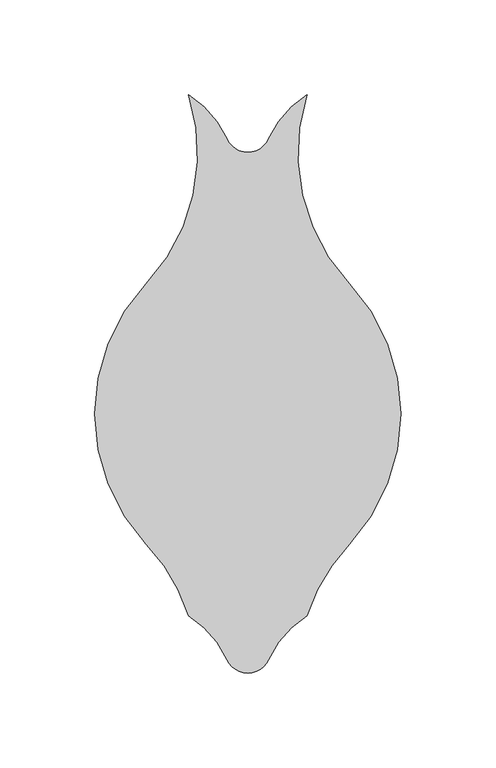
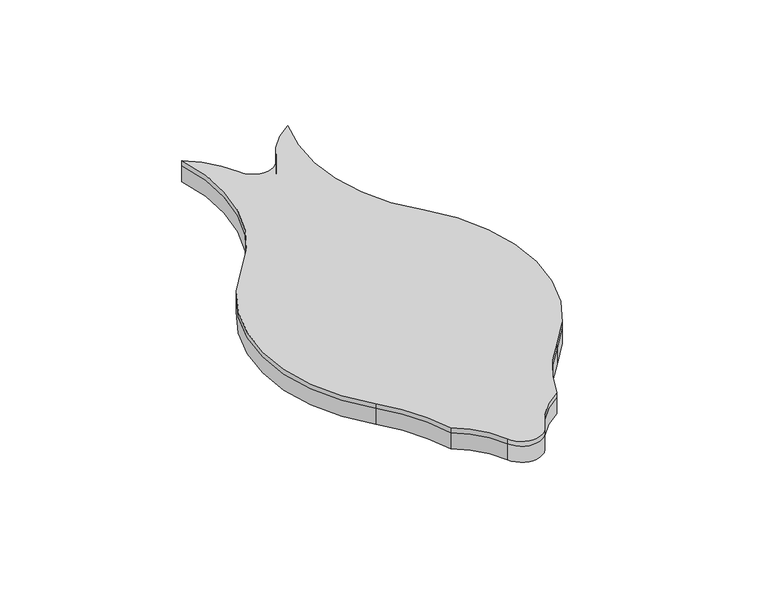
"""IFC4 building model written with IfcOpenShell, lengths in millimetres: proxy geometry, FilzFelt_Fish_Block : Fish Block."""

from ifc_helpers import new_model, si_unit, frame, origin, place, context, project, spatial, polyline, circle_curve, source, transform, mapped, element, save
from ifc_brep_helpers import plane_surface, cylinder_surface, revolved_surface, advanced_brep


def specialty_equipment_1d68d449(model_context):
    return source(origin(), model_context, "Body", "AdvancedBrep", [
        advanced_brep(
        [(53.5486457, -68.6120133, 10.0210937), (31.2619065, -106.3338576, 10.0210937), (11.0103348, -129.4133496, 10.0210937), (-11.0103348, -129.4133496, 10.0210937), (-31.2619065, -106.3338576, 10.0210937), (-53.5486457, -68.6120133, 10.0210937), (-80.7142226, 0.0, 10.0210937), (-53.5486457, 68.6120133, 10.0210937), (-31.2619065, 168.1141956, 10.0210937), (-11.0103348, 145.0347036, 10.0210937), (11.0103348, 145.0347036, 10.0210937), (31.2619065, 168.1141956, 10.0210937), (53.5486457, 68.6120133, 10.0210937), (53.5486457, -68.6120133, 12.9976563), (80.7142226, 0.0, 12.9976563), (53.5486457, 68.6120133, 12.9976563), (31.2619065, 168.1141956, 12.9976563), (11.0103348, 145.0347036, 12.9976563), (-11.0103348, 145.0347036, 12.9976563), (-31.2619065, 168.1141956, 12.9976563), (-53.5486457, 68.6120133, 12.9976563), (-80.7142226, 0.0, 12.9976563), (-53.5486457, -68.6120133, 12.9976563), (-31.2619065, -106.3338576, 12.9976563), (-11.0103348, -129.4133496, 12.9976563), (0.0, -136.5838795, 12.9976563), (11.0103348, -129.4133496, 12.9976563), (31.2619065, -106.3338576, 12.9976563)],
        [
            (0, 1, circle_curve(frame((126.6124317, -137.2240266, 10.0210937), z_axis=(0.0, 0.0, 1.0), x_axis=(-1.0, 0.0, 0.0)), 100.2293629)),
            (1, 2, circle_curve(frame((57.9263497, -150.1559416, 10.0210937), z_axis=(0.0, 0.0, 1.0), x_axis=(-1.0, 0.0, 0.0)), 51.2968574)),
            (2, 3, circle_curve(frame((0.0, -124.5454408, 10.0210937), z_axis=(0.0, 0.0, -1.0), x_axis=(-1.0, 0.0, 0.0)), 12.0384388)),
            (3, 4, circle_curve(frame((-57.9263497, -150.1559416, 10.0210937), z_axis=(0.0, 0.0, 1.0), x_axis=(-1.0, 0.0, 0.0)), 51.2968574)),
            (4, 5, circle_curve(frame((-126.6124317, -137.2240266, 10.0210937), z_axis=(0.0, 0.0, 1.0), x_axis=(-1.0, 0.0, 0.0)), 100.2293629)),
            (5, 6, circle_curve(frame((19.5151403, 0.0, 10.0210937), z_axis=(0.0, 0.0, -1.0), x_axis=(-1.0, 0.0, 0.0)), 100.2293629)),
            (6, 7, circle_curve(frame((19.5151403, 0.0, 10.0210937), z_axis=(0.0, 0.0, -1.0), x_axis=(-1.0, 0.0, 0.0)), 100.2293629)),
            (7, 8, circle_curve(frame((-126.6124317, 137.2240266, 10.0210937), z_axis=(0.0, 0.0, 1.0), x_axis=(-1.0, 0.0, 0.0)), 100.2293629)),
            (8, 9, circle_curve(frame((-57.9263497, 124.2921115, 10.0210937), z_axis=(0.0, 0.0, -1.0), x_axis=(-1.0, 0.0, 0.0)), 51.2968574)),
            (9, 10, circle_curve(frame((0.0, 149.9026124, 10.0210937), z_axis=(0.0, 0.0, 1.0), x_axis=(-1.0, 0.0, 0.0)), 12.0384388)),
            (10, 11, circle_curve(frame((57.9263497, 124.2921115, 10.0210937), z_axis=(0.0, 0.0, -1.0), x_axis=(-1.0, 0.0, 0.0)), 51.2968574)),
            (11, 12, circle_curve(frame((126.6124317, 137.2240266, 10.0210937), z_axis=(0.0, 0.0, 1.0), x_axis=(-1.0, 0.0, 0.0)), 100.2293629)),
            (12, 0, circle_curve(frame((-19.5151403, 0.0, 10.0210937), z_axis=(0.0, 0.0, -1.0), x_axis=(-1.0, 0.0, 0.0)), 100.2293629)),
            (13, 14, circle_curve(frame((-19.5151403, 0.0, 12.9976563), z_axis=(0.0, 0.0, 1.0), x_axis=(-1.0, 0.0, 0.0)), 100.2293629)),
            (14, 15, circle_curve(frame((-19.5151403, 0.0, 12.9976563), z_axis=(0.0, 0.0, 1.0), x_axis=(-1.0, 0.0, 0.0)), 100.2293629)),
            (15, 16, circle_curve(frame((126.6124317, 137.2240266, 12.9976563), z_axis=(0.0, 0.0, -1.0), x_axis=(-1.0, 0.0, 0.0)), 100.2293629)),
            (16, 17, circle_curve(frame((57.9263497, 124.2921115, 12.9976563), z_axis=(0.0, 0.0, 1.0), x_axis=(-1.0, 0.0, 0.0)), 51.2968574)),
            (17, 18, circle_curve(frame((0.0, 149.9026124, 12.9976563), z_axis=(0.0, 0.0, -1.0), x_axis=(-1.0, 0.0, 0.0)), 12.0384388)),
            (18, 19, circle_curve(frame((-57.9263497, 124.2921115, 12.9976563), z_axis=(0.0, 0.0, 1.0), x_axis=(-1.0, 0.0, 0.0)), 51.2968574)),
            (19, 20, circle_curve(frame((-126.6124317, 137.2240266, 12.9976563), z_axis=(0.0, 0.0, -1.0), x_axis=(-1.0, 0.0, 0.0)), 100.2293629)),
            (20, 21, circle_curve(frame((19.5151403, 0.0, 12.9976563), z_axis=(0.0, 0.0, 1.0), x_axis=(-1.0, 0.0, 0.0)), 100.2293629)),
            (21, 22, circle_curve(frame((19.5151403, 0.0, 12.9976563), z_axis=(0.0, 0.0, 1.0), x_axis=(-1.0, 0.0, 0.0)), 100.2293629)),
            (22, 23, circle_curve(frame((-126.6124317, -137.2240266, 12.9976563), z_axis=(0.0, 0.0, -1.0), x_axis=(-1.0, 0.0, 0.0)), 100.2293629)),
            (23, 24, circle_curve(frame((-57.9263497, -150.1559416, 12.9976563), z_axis=(0.0, 0.0, -1.0), x_axis=(-1.0, 0.0, 0.0)), 51.2968574)),
            (24, 25, circle_curve(frame((0.0, -124.5454408, 12.9976563), z_axis=(0.0, 0.0, 1.0), x_axis=(-1.0, 0.0, 0.0)), 12.0384388)),
            (25, 26, circle_curve(frame((0.0, -124.5454408, 12.9976563), z_axis=(0.0, 0.0, 1.0), x_axis=(-1.0, 0.0, 0.0)), 12.0384388)),
            (26, 27, circle_curve(frame((57.9263497, -150.1559416, 12.9976563), z_axis=(0.0, 0.0, -1.0), x_axis=(-1.0, 0.0, 0.0)), 51.2968574)),
            (27, 13, circle_curve(frame((126.6124317, -137.2240266, 12.9976563), z_axis=(0.0, 0.0, -1.0), x_axis=(-1.0, 0.0, 0.0)), 100.2293629)),
            (12, 15),
            (13, 0),
            (11, 16),
            (10, 17),
            (9, 18),
            (8, 19),
            (7, 20),
            (5, 22),
            (4, 23),
            (3, 24),
            (2, 26),
            (1, 27),
        ],
        [
            plane_surface(frame((0.0, 0.0, 10.0210937), z_axis=(0.0, 0.0, -1.0), x_axis=(0.0, 1.0, 0.0))),
            plane_surface(frame((0.0, 0.0, 12.9976563), z_axis=(0.0, 0.0, 1.0), x_axis=(0.0, 1.0, 0.0))),
            cylinder_surface(frame((-19.5151403, 0.0, 10.0210937), z_axis=(0.0, 0.0, -1.0), x_axis=(-1.0, 0.0, 0.0)), 100.2293629),
            revolved_surface(polyline([(26.383068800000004, 137.2240266, 12.9976563), (26.383068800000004, 137.2240266, 10.0210937)]), (126.6124317, 137.2240266, 10.0210937), (0.0, 0.0, 1.0)),
            cylinder_surface(frame((57.9263497, 124.2921115, 10.0210937), z_axis=(0.0, 0.0, -1.0), x_axis=(-1.0, 0.0, 0.0)), 51.2968574),
            revolved_surface(polyline([(-12.0384388, 149.9026124, 12.9976563), (-12.0384388, 149.9026124, 10.0210937)]), (0.0, 149.9026124, 10.0210937), (0.0, 0.0, 1.0)),
            cylinder_surface(frame((-57.9263497, 124.2921115, 10.0210937), z_axis=(0.0, 0.0, -1.0), x_axis=(-1.0, 0.0, 0.0)), 51.2968574),
            revolved_surface(polyline([(-226.84179460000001, 137.2240266, 12.9976563), (-226.84179460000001, 137.2240266, 10.0210937)]), (-126.6124317, 137.2240266, 10.0210937), (0.0, 0.0, 1.0)),
            cylinder_surface(frame((19.5151403, 0.0, 10.0210937), z_axis=(0.0, 0.0, -1.0), x_axis=(-1.0, 0.0, 0.0)), 100.2293629),
            revolved_surface(polyline([(-226.84179460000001, -137.2240266, 12.9976563), (-226.84179460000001, -137.2240266, 10.0210937)]), (-126.6124317, -137.2240266, 10.0210937), (0.0, 0.0, 1.0)),
            revolved_surface(polyline([(-109.2232071, -150.1559416, 12.9976563), (-109.2232071, -150.1559416, 10.0210937)]), (-57.9263497, -150.1559416, 10.0210937), (0.0, 0.0, 1.0)),
            cylinder_surface(frame((0.0, -124.5454408, 10.0210937), z_axis=(0.0, 0.0, -1.0), x_axis=(-1.0, 0.0, 0.0)), 12.0384388),
            revolved_surface(polyline([(6.629492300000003, -150.1559416, 12.9976563), (6.629492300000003, -150.1559416, 10.0210937)]), (57.9263497, -150.1559416, 10.0210937), (0.0, 0.0, 1.0)),
            revolved_surface(polyline([(26.383068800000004, -137.2240266, 12.9976563), (26.383068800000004, -137.2240266, 10.0210937)]), (126.6124317, -137.2240266, 10.0210937), (0.0, 0.0, 1.0)),
        ],
        [
            (0, [[1, 2, 3, 4, 5, 6, 7, 8, 9, 10, 11, 12, 13]]),
            (1, [[14, 15, 16, 17, 18, 19, 20, 21, 22, 23, 24, 25, 26, 27, 28]]),
            (2, [[29, -15, -14, 30, -13]]),
            (3, [[31, -16, -29, -12]]),
            (4, [[32, -17, -31, -11]]),
            (5, [[33, -18, -32, -10]]),
            (6, [[34, -19, -33, -9]]),
            (7, [[35, -20, -34, -8]]),
            (8, [[-7, -6, 36, -22, -21, -35]]),
            (9, [[37, -23, -36, -5]]),
            (10, [[38, -24, -37, -4]]),
            (11, [[39, -26, -25, -38, -3]]),
            (12, [[40, -27, -39, -2]]),
            (13, [[-30, -28, -40, -1]]),
        ],
    ),
        advanced_brep(
        [(31.2619065, 168.1141956, 0.0), (53.5486457, 68.6120133, 0.0), (80.7142226, 0.0, 0.0), (53.5486457, -68.6120133, 0.0), (31.2619065, -106.3338576, 0.0), (11.0103348, -129.4133496, 0.0), (0.0, -136.5838795, 0.0), (-11.0103348, -129.4133496, 0.0), (-31.2619065, -106.3338576, 0.0), (-53.5486457, -68.6120133, 0.0), (-80.7142226, 0.0, 0.0), (-53.5486457, 68.6120133, 0.0), (-31.2619065, 168.1141956, 0.0), (-11.0103348, 145.0347036, 0.0), (11.0103348, 145.0347036, 0.0), (31.2619065, 168.1141956, 10.0210937), (11.0103348, 145.0347036, 10.0210937), (-11.0103348, 145.0347036, 10.0210937), (-31.2619065, 168.1141956, 10.0210937), (-53.5486457, 68.6120133, 10.0210937), (-80.7142226, 0.0, 10.0210937), (-53.5486457, -68.6120133, 10.0210937), (-31.2619065, -106.3338576, 10.0210937), (-11.0103348, -129.4133496, 10.0210937), (11.0103348, -129.4133496, 10.0210937), (31.2619065, -106.3338576, 10.0210937), (53.5486457, -68.6120133, 10.0210937), (53.5486457, 68.6120133, 10.0210937)],
        [
            (0, 1, circle_curve(frame((126.6124317, 137.2240266, 0.0), z_axis=(0.0, 0.0, 1.0), x_axis=(-1.0, 0.0, 0.0)), 100.2293629)),
            (1, 2, circle_curve(frame((-19.5151403, 0.0, 0.0), z_axis=(0.0, 0.0, -1.0), x_axis=(-1.0, 0.0, 0.0)), 100.2293629)),
            (2, 3, circle_curve(frame((-19.5151403, 0.0, 0.0), z_axis=(0.0, 0.0, -1.0), x_axis=(-1.0, 0.0, 0.0)), 100.2293629)),
            (3, 4, circle_curve(frame((126.6124317, -137.2240266, 0.0), z_axis=(0.0, 0.0, 1.0), x_axis=(-1.0, 0.0, 0.0)), 100.2293629)),
            (4, 5, circle_curve(frame((57.9263497, -150.1559416, 0.0), z_axis=(0.0, 0.0, 1.0), x_axis=(-1.0, 0.0, 0.0)), 51.2968574)),
            (5, 6, circle_curve(frame((0.0, -124.5454408, 0.0), z_axis=(0.0, 0.0, -1.0), x_axis=(-1.0, 0.0, 0.0)), 12.0384388)),
            (6, 7, circle_curve(frame((0.0, -124.5454408, 0.0), z_axis=(0.0, 0.0, -1.0), x_axis=(-1.0, 0.0, 0.0)), 12.0384388)),
            (7, 8, circle_curve(frame((-57.9263497, -150.1559416, 0.0), z_axis=(0.0, 0.0, 1.0), x_axis=(-1.0, 0.0, 0.0)), 51.2968574)),
            (8, 9, circle_curve(frame((-126.6124317, -137.2240266, 0.0), z_axis=(0.0, 0.0, 1.0), x_axis=(-1.0, 0.0, 0.0)), 100.2293629)),
            (9, 10, circle_curve(frame((19.5151403, 0.0, 0.0), z_axis=(0.0, 0.0, -1.0), x_axis=(-1.0, 0.0, 0.0)), 100.2293629)),
            (10, 11, circle_curve(frame((19.5151403, 0.0, 0.0), z_axis=(0.0, 0.0, -1.0), x_axis=(-1.0, 0.0, 0.0)), 100.2293629)),
            (11, 12, circle_curve(frame((-126.6124317, 137.2240266, 0.0), z_axis=(0.0, 0.0, 1.0), x_axis=(-1.0, 0.0, 0.0)), 100.2293629)),
            (12, 13, circle_curve(frame((-57.9263497, 124.2921115, 0.0), z_axis=(0.0, 0.0, -1.0), x_axis=(-1.0, 0.0, 0.0)), 51.2968574)),
            (13, 14, circle_curve(frame((0.0, 149.9026124, 0.0), z_axis=(0.0, 0.0, 1.0), x_axis=(-1.0, 0.0, 0.0)), 12.0384388)),
            (14, 0, circle_curve(frame((57.9263497, 124.2921115, 0.0), z_axis=(0.0, 0.0, -1.0), x_axis=(-1.0, 0.0, 0.0)), 51.2968574)),
            (15, 16, circle_curve(frame((57.9263497, 124.2921115, 10.0210937), z_axis=(0.0, 0.0, 1.0), x_axis=(-1.0, 0.0, 0.0)), 51.2968574)),
            (16, 17, circle_curve(frame((0.0, 149.9026124, 10.0210937), z_axis=(0.0, 0.0, -1.0), x_axis=(-1.0, 0.0, 0.0)), 12.0384388)),
            (17, 18, circle_curve(frame((-57.9263497, 124.2921115, 10.0210937), z_axis=(0.0, 0.0, 1.0), x_axis=(-1.0, 0.0, 0.0)), 51.2968574)),
            (18, 19, circle_curve(frame((-126.6124317, 137.2240266, 10.0210937), z_axis=(0.0, 0.0, -1.0), x_axis=(-1.0, 0.0, 0.0)), 100.2293629)),
            (19, 20, circle_curve(frame((19.5151403, 0.0, 10.0210937), z_axis=(0.0, 0.0, 1.0), x_axis=(-1.0, 0.0, 0.0)), 100.2293629)),
            (20, 21, circle_curve(frame((19.5151403, 0.0, 10.0210937), z_axis=(0.0, 0.0, 1.0), x_axis=(-1.0, 0.0, 0.0)), 100.2293629)),
            (21, 22, circle_curve(frame((-126.6124317, -137.2240266, 10.0210937), z_axis=(0.0, 0.0, -1.0), x_axis=(-1.0, 0.0, 0.0)), 100.2293629)),
            (22, 23, circle_curve(frame((-57.9263497, -150.1559416, 10.0210937), z_axis=(0.0, 0.0, -1.0), x_axis=(-1.0, 0.0, 0.0)), 51.2968574)),
            (23, 24, circle_curve(frame((0.0, -124.5454408, 10.0210937), z_axis=(0.0, 0.0, 1.0), x_axis=(-1.0, 0.0, 0.0)), 12.0384388)),
            (24, 25, circle_curve(frame((57.9263497, -150.1559416, 10.0210937), z_axis=(0.0, 0.0, -1.0), x_axis=(-1.0, 0.0, 0.0)), 51.2968574)),
            (25, 26, circle_curve(frame((126.6124317, -137.2240266, 10.0210937), z_axis=(0.0, 0.0, -1.0), x_axis=(-1.0, 0.0, 0.0)), 100.2293629)),
            (26, 27, circle_curve(frame((-19.5151403, 0.0, 10.0210937), z_axis=(0.0, 0.0, 1.0), x_axis=(-1.0, 0.0, 0.0)), 100.2293629)),
            (27, 15, circle_curve(frame((126.6124317, 137.2240266, 10.0210937), z_axis=(0.0, 0.0, -1.0), x_axis=(-1.0, 0.0, 0.0)), 100.2293629)),
            (14, 16),
            (15, 0),
            (13, 17),
            (12, 18),
            (11, 19),
            (9, 21),
            (8, 22),
            (7, 23),
            (5, 24),
            (4, 25),
            (3, 26),
            (1, 27),
        ],
        [
            plane_surface(frame((0.0, 0.0, 0.0), z_axis=(0.0, 0.0, -1.0), x_axis=(0.0, 1.0, 0.0))),
            plane_surface(frame((0.0, 0.0, 10.0210937), z_axis=(0.0, 0.0, 1.0), x_axis=(0.0, 1.0, 0.0))),
            cylinder_surface(frame((57.9263497, 124.2921115, 0.0), z_axis=(0.0, 0.0, -1.0), x_axis=(-1.0, 0.0, 0.0)), 51.2968574),
            revolved_surface(polyline([(-12.0384388, 149.9026124, 10.0210937), (-12.0384388, 149.9026124, 0.0)]), (0.0, 149.9026124, 0.0), (0.0, 0.0, 1.0)),
            cylinder_surface(frame((-57.9263497, 124.2921115, 0.0), z_axis=(0.0, 0.0, -1.0), x_axis=(-1.0, 0.0, 0.0)), 51.2968574),
            revolved_surface(polyline([(-226.84179460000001, 137.2240266, 10.0210937), (-226.84179460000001, 137.2240266, 0.0)]), (-126.6124317, 137.2240266, 0.0), (0.0, 0.0, 1.0)),
            cylinder_surface(frame((19.5151403, 0.0, 0.0), z_axis=(0.0, 0.0, -1.0), x_axis=(-1.0, 0.0, 0.0)), 100.2293629),
            revolved_surface(polyline([(-226.84179460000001, -137.2240266, 10.0210937), (-226.84179460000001, -137.2240266, 0.0)]), (-126.6124317, -137.2240266, 0.0), (0.0, 0.0, 1.0)),
            revolved_surface(polyline([(-109.2232071, -150.1559416, 10.0210937), (-109.2232071, -150.1559416, 0.0)]), (-57.9263497, -150.1559416, 0.0), (0.0, 0.0, 1.0)),
            cylinder_surface(frame((0.0, -124.5454408, 0.0), z_axis=(0.0, 0.0, -1.0), x_axis=(-1.0, 0.0, 0.0)), 12.0384388),
            revolved_surface(polyline([(6.629492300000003, -150.1559416, 10.0210937), (6.629492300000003, -150.1559416, 0.0)]), (57.9263497, -150.1559416, 0.0), (0.0, 0.0, 1.0)),
            revolved_surface(polyline([(26.383068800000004, -137.2240266, 10.0210937), (26.383068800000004, -137.2240266, 0.0)]), (126.6124317, -137.2240266, 0.0), (0.0, 0.0, 1.0)),
            cylinder_surface(frame((-19.5151403, 0.0, 0.0), z_axis=(0.0, 0.0, -1.0), x_axis=(-1.0, 0.0, 0.0)), 100.2293629),
            revolved_surface(polyline([(26.383068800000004, 137.2240266, 10.0210937), (26.383068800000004, 137.2240266, 0.0)]), (126.6124317, 137.2240266, 0.0), (0.0, 0.0, 1.0)),
        ],
        [
            (0, [[1, 2, 3, 4, 5, 6, 7, 8, 9, 10, 11, 12, 13, 14, 15]]),
            (1, [[16, 17, 18, 19, 20, 21, 22, 23, 24, 25, 26, 27, 28]]),
            (2, [[29, -16, 30, -15]]),
            (3, [[31, -17, -29, -14]]),
            (4, [[32, -18, -31, -13]]),
            (5, [[33, -19, -32, -12]]),
            (6, [[-11, -10, 34, -21, -20, -33]]),
            (7, [[35, -22, -34, -9]]),
            (8, [[36, -23, -35, -8]]),
            (9, [[-36, -7, -6, 37, -24]]),
            (10, [[38, -25, -37, -5]]),
            (11, [[39, -26, -38, -4]]),
            (12, [[-39, -3, -2, 40, -27]]),
            (13, [[-30, -28, -40, -1]]),
        ],
    ),
    ])


if __name__ == "__main__":
    model = new_model("IFC4")
    model_context = context("Model", 3, world=origin())
    ifc_project = project(units=[si_unit("LENGTHUNIT", "METRE", prefix="MILLI")], contexts=[model_context])
    site = spatial("IfcSite", under=ifc_project)
    building = spatial("IfcBuilding", under=site)
    placement = place(None, origin())
    specialty_equipment_shape = specialty_equipment_1d68d449(model_context)
    element("IfcBuildingElementProxy", 1, Name="FilzFelt_Fish_Block : Fish Block", ObjectType="FilzFelt_Fish_Block : Fish Block", at=placement, inside=building, context=model_context, shape_type="MappedRepresentation", body=[
        mapped(specialty_equipment_shape, transform((0.0, 0.0, 0.0), x_axis=(1.0, 0.0, 0.0), y_axis=(0.0, 1.0, 0.0), z_axis=(0.0, 0.0, 1.0))),
    ])
    save(model, "model.ifc")
